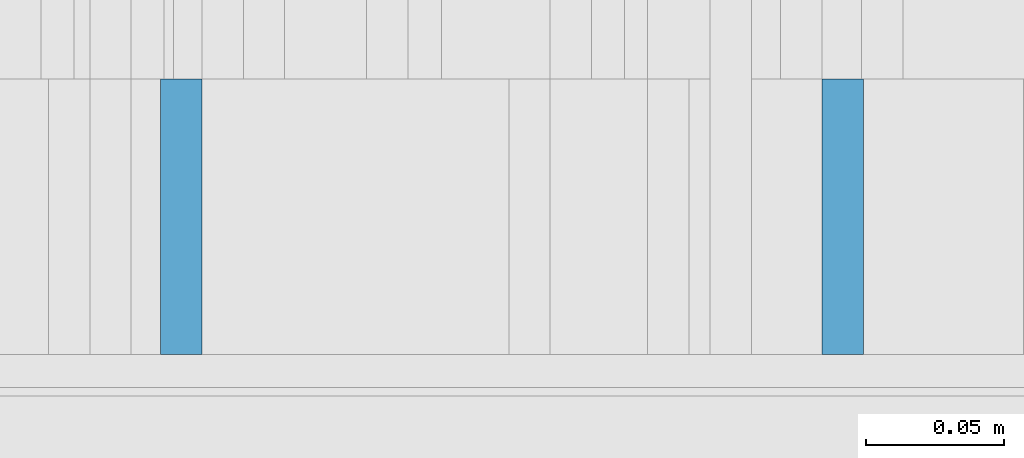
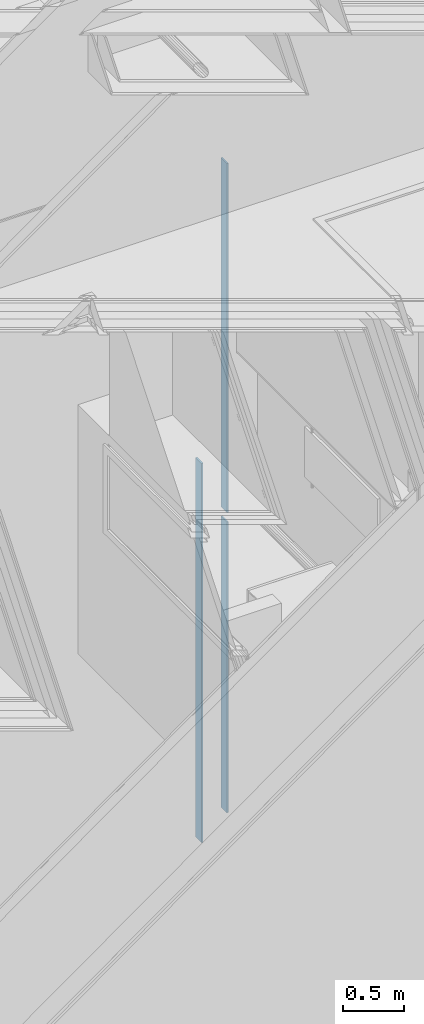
# One storey, part 103 of 583: 3 building element parts, 1 element without a shape of its own.
"""IFC2X3 building model written with IfcOpenShell, lengths in metres."""

from ifc_helpers import new_model, entity, si_unit, converted_unit, derived_unit, money_unit, direction, frame, frame_2d, origin_with_axes, place, context, subcontext, project, spatial, rectangle, extrude, material, type_object, element, aggregate, save


model = new_model("IFC2X3")

# Units and contexts
model_context = context("Model", 3, precision=1e-05, world=origin_with_axes(), true_north=direction((0.0, 1.0)))
body_context = subcontext(model_context, "Body", "Model", "MODEL_VIEW", scale=1.0)
ifc_project = project(units=[si_unit("LENGTHUNIT", "METRE"), si_unit("AREAUNIT", "SQUARE_METRE"), si_unit("VOLUMEUNIT", "CUBIC_METRE"), si_unit("ABSORBEDDOSEUNIT", "GRAY"), si_unit("AMOUNTOFSUBSTANCEUNIT", "MOLE"), si_unit("DOSEEQUIVALENTUNIT", "SIEVERT"), si_unit("ELECTRICCAPACITANCEUNIT", "FARAD"), si_unit("ELECTRICCHARGEUNIT", "COULOMB"), si_unit("ELECTRICCONDUCTANCEUNIT", "SIEMENS"), si_unit("ELECTRICCURRENTUNIT", "AMPERE"), si_unit("ELECTRICRESISTANCEUNIT", "OHM"), si_unit("ELECTRICVOLTAGEUNIT", "VOLT"), si_unit("ENERGYUNIT", "JOULE"), si_unit("FORCEUNIT", "NEWTON"), si_unit("FREQUENCYUNIT", "HERTZ"), si_unit("ILLUMINANCEUNIT", "LUX"), si_unit("INDUCTANCEUNIT", "HENRY"), si_unit("LUMINOUSFLUXUNIT", "LUMEN"), si_unit("LUMINOUSINTENSITYUNIT", "CANDELA"), si_unit("MAGNETICFLUXDENSITYUNIT", "TESLA"), si_unit("MAGNETICFLUXUNIT", "WEBER"), si_unit("MASSUNIT", "GRAM"), converted_unit("PLANEANGLEUNIT", "degree", entity("IfcReal", 0.0174532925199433), si_unit("PLANEANGLEUNIT", "RADIAN"), dimensions=[0, 0, 0, 0, 0, 0, 0]), si_unit("POWERUNIT", "WATT"), si_unit("PRESSUREUNIT", "PASCAL"), si_unit("RADIOACTIVITYUNIT", "BECQUEREL"), si_unit("SOLIDANGLEUNIT", "STERADIAN"), si_unit("THERMODYNAMICTEMPERATUREUNIT", "KELVIN"), si_unit("TIMEUNIT", "SECOND"), derived_unit("ACCELERATIONUNIT", [(si_unit("LENGTHUNIT", "METRE"), 1), (si_unit("TIMEUNIT", "SECOND"), -2)]), derived_unit("ANGULARVELOCITYUNIT", [(converted_unit("PLANEANGLEUNIT", "degree", entity("IfcReal", 0.0174532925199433), si_unit("PLANEANGLEUNIT", "RADIAN"), dimensions=[0, 0, 0, 0, 0, 0, 0]), 1), (si_unit("TIMEUNIT", "SECOND"), -1)]), derived_unit("CURVATUREUNIT", [(converted_unit("PLANEANGLEUNIT", "degree", entity("IfcReal", 0.0174532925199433), si_unit("PLANEANGLEUNIT", "RADIAN"), dimensions=[0, 0, 0, 0, 0, 0, 0]), 1), (si_unit("LENGTHUNIT", "METRE"), -1)]), derived_unit("DYNAMICVISCOSITYUNIT", [(si_unit("PRESSUREUNIT", "PASCAL"), 1), (si_unit("TIMEUNIT", "SECOND"), 1)]), derived_unit("HEATFLUXDENSITYUNIT", [(si_unit("POWERUNIT", "WATT"), 1), (si_unit("LENGTHUNIT", "METRE"), -2)]), derived_unit("HEATINGVALUEUNIT", [(si_unit("ENERGYUNIT", "JOULE"), 1), (si_unit("MASSUNIT", "GRAM"), -1)]), derived_unit("INTEGERCOUNTRATEUNIT", [(si_unit("TIMEUNIT", "SECOND"), -1)]), derived_unit("IONCONCENTRATIONUNIT", [(si_unit("MASSUNIT", "GRAM"), 1), (si_unit("VOLUMEUNIT", "CUBIC_METRE"), -1)]), derived_unit("ISOTHERMALMOISTURECAPACITYUNIT", [(si_unit("VOLUMEUNIT", "CUBIC_METRE"), 1), (si_unit("MASSUNIT", "GRAM"), -1)]), derived_unit("KINEMATICVISCOSITYUNIT", [(si_unit("AREAUNIT", "SQUARE_METRE"), 1), (si_unit("TIMEUNIT", "SECOND"), -1)]), derived_unit("LINEARFORCEUNIT", [(si_unit("FORCEUNIT", "NEWTON"), 1), (si_unit("LENGTHUNIT", "METRE"), -1)]), derived_unit("LINEARMOMENTUNIT", [(si_unit("FORCEUNIT", "NEWTON"), 1), (si_unit("LENGTHUNIT", "METRE"), -1)]), derived_unit("LINEARSTIFFNESSUNIT", [(si_unit("FORCEUNIT", "NEWTON"), 1), (si_unit("LENGTHUNIT", "METRE"), -1)]), derived_unit("LINEARVELOCITYUNIT", [(si_unit("LENGTHUNIT", "METRE"), 1), (si_unit("TIMEUNIT", "SECOND"), -1)]), derived_unit("LUMINOUSINTENSITYDISTRIBUTIONUNIT", [(si_unit("LUMINOUSINTENSITYUNIT", "CANDELA"), 1), (si_unit("LUMINOUSFLUXUNIT", "LUMEN"), -1)]), derived_unit("MASSDENSITYUNIT", [(si_unit("MASSUNIT", "GRAM"), 1), (si_unit("VOLUMEUNIT", "CUBIC_METRE"), -1)]), derived_unit("MASSFLOWRATEUNIT", [(si_unit("MASSUNIT", "GRAM"), 1), (si_unit("TIMEUNIT", "SECOND"), -1)]), derived_unit("MASSPERLENGTHUNIT", [(si_unit("MASSUNIT", "GRAM"), 1), (si_unit("LENGTHUNIT", "METRE"), -1)]), derived_unit("MODULUSOFELASTICITYUNIT", [(si_unit("FORCEUNIT", "NEWTON"), 1), (si_unit("AREAUNIT", "SQUARE_METRE"), -1)]), derived_unit("MODULUSOFLINEARSUBGRADEREACTIONUNIT", [(si_unit("FORCEUNIT", "NEWTON"), 1), (si_unit("LENGTHUNIT", "METRE"), -2)]), derived_unit("MODULUSOFROTATIONALSUBGRADEREACTIONUNIT", [(si_unit("FORCEUNIT", "NEWTON"), 1), (si_unit("LENGTHUNIT", "METRE"), 1)]), derived_unit("MODULUSOFSUBGRADEREACTIONUNIT", [(si_unit("FORCEUNIT", "NEWTON"), 1), (si_unit("VOLUMEUNIT", "CUBIC_METRE"), -1)]), derived_unit("MOISTUREDIFFUSIVITYUNIT", [(si_unit("VOLUMEUNIT", "CUBIC_METRE"), 1), (si_unit("TIMEUNIT", "SECOND"), -1)]), derived_unit("MOLECULARWEIGHTUNIT", [(si_unit("MASSUNIT", "GRAM"), 1), (si_unit("AMOUNTOFSUBSTANCEUNIT", "MOLE"), -1)]), derived_unit("PLANARFORCEUNIT", [(si_unit("FORCEUNIT", "NEWTON"), 1), (si_unit("LENGTHUNIT", "METRE"), -2)]), derived_unit("ROTATIONALFREQUENCYUNIT", [(si_unit("TIMEUNIT", "SECOND"), -1)]), derived_unit("ROTATIONALMASSUNIT", [(si_unit("MASSUNIT", "GRAM"), 1), (si_unit("LENGTHUNIT", "METRE"), 2)]), derived_unit("ROTATIONALSTIFFNESSUNIT", [(si_unit("FORCEUNIT", "NEWTON"), 1), (si_unit("LENGTHUNIT", "METRE"), 1), (converted_unit("PLANEANGLEUNIT", "degree", entity("IfcReal", 0.0174532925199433), si_unit("PLANEANGLEUNIT", "RADIAN"), dimensions=[0, 0, 0, 0, 0, 0, 0]), -1)]), derived_unit("SECTIONAREAINTEGRALUNIT", [(si_unit("LENGTHUNIT", "METRE"), 5)]), derived_unit("SECTIONMODULUSUNIT", [(si_unit("LENGTHUNIT", "METRE"), 3)]), derived_unit("SHEARMODULUSUNIT", [(si_unit("FORCEUNIT", "NEWTON"), 1), (si_unit("AREAUNIT", "SQUARE_METRE"), -1)]), derived_unit("SOUNDPOWERUNIT", [(si_unit("ENERGYUNIT", "JOULE"), 1), (si_unit("TIMEUNIT", "SECOND"), -1)]), derived_unit("SPECIFICHEATCAPACITYUNIT", [(si_unit("FORCEUNIT", "NEWTON"), 1), (si_unit("MASSUNIT", "GRAM"), -1), (si_unit("THERMODYNAMICTEMPERATUREUNIT", "KELVIN"), -1)]), derived_unit("TEMPERATUREGRADIENTUNIT", [(si_unit("THERMODYNAMICTEMPERATUREUNIT", "KELVIN"), 1), (si_unit("LENGTHUNIT", "METRE"), -1)]), derived_unit("THERMALADMITTANCEUNIT", [(si_unit("POWERUNIT", "WATT"), 1), (si_unit("AREAUNIT", "SQUARE_METRE"), -1), (si_unit("THERMODYNAMICTEMPERATUREUNIT", "KELVIN"), -1)]), derived_unit("THERMALCONDUCTANCEUNIT", [(si_unit("POWERUNIT", "WATT"), 1), (si_unit("LENGTHUNIT", "METRE"), -1), (si_unit("THERMODYNAMICTEMPERATUREUNIT", "KELVIN"), -1)]), derived_unit("THERMALEXPANSIONCOEFFICIENTUNIT", [(si_unit("THERMODYNAMICTEMPERATUREUNIT", "KELVIN"), -1)]), derived_unit("THERMALRESISTANCEUNIT", [(si_unit("AREAUNIT", "SQUARE_METRE"), 1), (si_unit("POWERUNIT", "WATT"), -1)]), derived_unit("THERMALTRANSMITTANCEUNIT", [(si_unit("POWERUNIT", "WATT"), 1), (si_unit("AREAUNIT", "SQUARE_METRE"), -1), (si_unit("THERMODYNAMICTEMPERATUREUNIT", "KELVIN"), -1)]), derived_unit("TORQUEUNIT", [(si_unit("FORCEUNIT", "NEWTON"), 1), (si_unit("LENGTHUNIT", "METRE"), 1)]), derived_unit("VAPORPERMEABILITYUNIT", [(si_unit("MASSUNIT", "GRAM"), 1), (si_unit("TIMEUNIT", "SECOND"), -1)]), derived_unit("VOLUMETRICFLOWRATEUNIT", [(si_unit("VOLUMEUNIT", "CUBIC_METRE"), 1), (si_unit("TIMEUNIT", "SECOND"), -1)]), derived_unit("WARPINGCONSTANTUNIT", [(si_unit("LENGTHUNIT", "METRE"), 6)]), derived_unit("WARPINGMOMENTUNIT", [(si_unit("FORCEUNIT", "NEWTON"), 1), (si_unit("LENGTHUNIT", "METRE"), 2)]), money_unit("GBP")], contexts=[model_context])

# Site, building, storey
site_placement = place(None, origin_with_axes())
site = spatial("IfcSite", under=ifc_project, at=site_placement, Name="Site", CompositionType="ELEMENT")
building_placement = place(site_placement, origin_with_axes())
building = spatial("IfcBuilding", under=site, at=building_placement, Name="Building01", CompositionType="ELEMENT")
storey_placement = place(building_placement, frame((0.0, 0.0, 20.78), z_axis=(0.0, 0.0, 1.0), x_axis=(1.0, 0.0, 0.0)))
storey = spatial("IfcBuildingStorey", under=building, at=storey_placement, Name="RL", CompositionType="ELEMENT", Elevation=20.78)

# Wall, building element parts
wall_type = type_object("IfcWallType", Name="SHE_A-Walls_Type01c_Partywall_225mm_twin_tall", PredefinedType="NOTDEFINED")
wall_placement = place(storey_placement, frame((8.34767, 8.64, -13.628331), z_axis=(0.0, 1.0, 0.0), x_axis=(0.0, 0.0, -1.0)))
wall = element("IfcWall", 1, at=wall_placement, inside=storey, type_object=wall_type, Name="1C", ObjectType="SHE_A-Walls_Type01c_Partywall_225mm_twin_tall")
ifc_material = material(Name="A_BSUK_Walls_Timber")
placement = place(wall_placement, origin_with_axes())
building_element_part_1 = element("IfcBuildingElementPart", 2, at=placement, material=ifc_material, Name="7", context=body_context, shape_type="SweptSolid", body=[
    extrude(rectangle(XDim=3.495, YDim=0.015, at=frame_2d((1.8345, -0.0955), x_axis=(-1.0, 0.0))), frame((0.0, 0.0, 0.015), z_axis=(0.0, 0.0, 1.0), x_axis=(1.0, 0.0, 0.0)), (0.0, 0.0, 1.0), 0.1),
])
building_element_part_2 = element("IfcBuildingElementPart", 3, at=placement, material=ifc_material, Name="8", context=body_context, shape_type="SweptSolid", body=[
    extrude(rectangle(XDim=2.911669, YDim=0.015, at=frame_2d((5.132834, -0.0955), x_axis=(-1.0, 0.0))), frame((0.0, 0.0, 0.015), z_axis=(0.0, 0.0, 1.0), x_axis=(1.0, 0.0, 0.0)), (0.0, 0.0, 1.0), 0.1),
])
building_element_part_3 = element("IfcBuildingElementPart", 4, at=placement, material=ifc_material, Name="9", context=body_context, shape_type="SweptSolid", body=[
    extrude(rectangle(XDim=3.79773, YDim=0.015, at=frame_2d((4.904804, 0.1445), x_axis=(-1.0, 0.0))), frame((0.0, 0.0, 0.015), z_axis=(0.0, 0.0, 1.0), x_axis=(1.0, 0.0, 0.0)), (0.0, 0.0, 1.0), 0.1),
])
aggregate(wall, [building_element_part_1, building_element_part_2, building_element_part_3])

save(model, "model.ifc")
